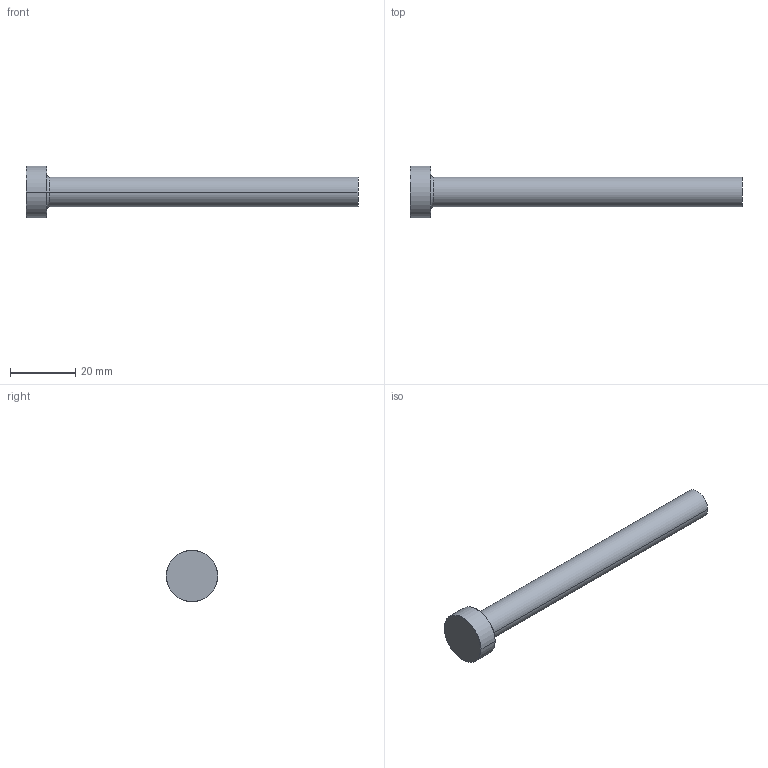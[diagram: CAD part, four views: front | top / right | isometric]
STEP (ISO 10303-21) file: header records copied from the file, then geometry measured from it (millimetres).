
FILE_DESCRIPTION (( 'STEP AP214' ), '1' );
FILE_NAME ('P24-4.STEP', '2020-03-12T09:49:53', ( '' ), ( '' ), 'SwSTEP 2.0', 'SolidWorks 2018', '' );
FILE_SCHEMA (( 'AUTOMOTIVE_DESIGN' ));
Length unit declared in the file: inch
Products named in the file (1): P24-4
Bounding box: 101.6 x 15.88 x 15.88 mm (x, y, z)
Volume: 7483 mm3; surface area: 3426.7 mm2
Topology: 1 solids, 1 shells, 13 faces, 24 edges, 14 vertices
Faces by surface type: cone 4, cylinder 4, plane 3, torus 2
Entity records: 366 total; most frequent: DIRECTION 68, CARTESIAN_POINT 52, ORIENTED_EDGE 48, AXIS2_PLACEMENT_3D 30, EDGE_CURVE 24, CIRCLE 16, EDGE_LOOP 14, VERTEX_POINT 14
